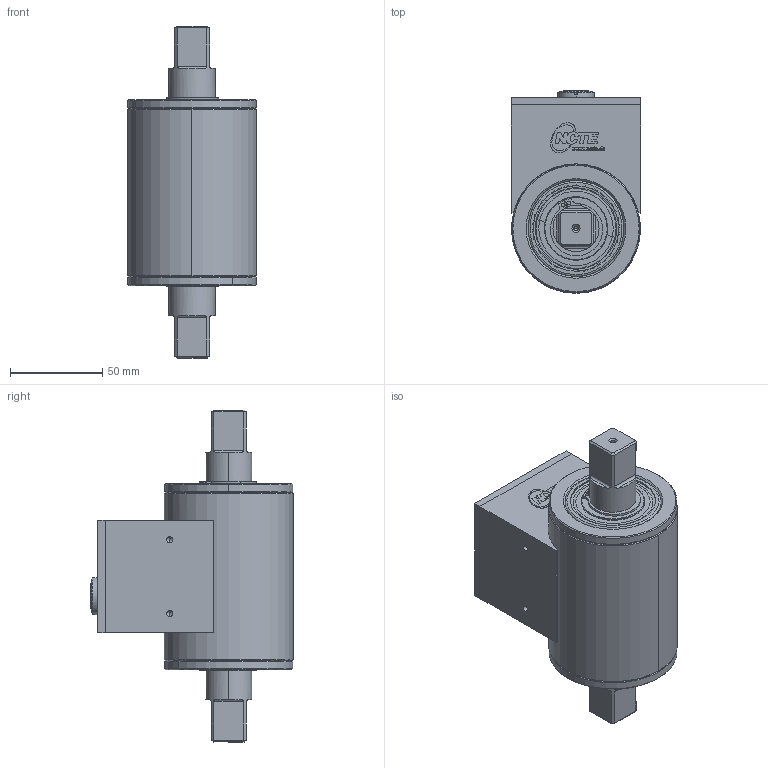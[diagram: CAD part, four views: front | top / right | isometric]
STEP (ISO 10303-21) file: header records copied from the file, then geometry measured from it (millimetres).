
FILE_DESCRIPTION (( 'STEP AP214' ), '1' );
FILE_NAME ('400007-ATS016_Sensor_Mb_250-500Nm_Vierkant_ohne_WS_IP50.STEP', '2016-11-29T09:55:41', ( '' ), ( '' ), 'SwSTEP 2.0', 'SolidWorks 2016', '' );
FILE_SCHEMA (( 'AUTOMOTIVE_DESIGN' ));
Length unit declared in the file: millimetre
Products named in the file (27): 400007-ATS016_Sensor_Mb_250-500Nm_Vierkant_ohne_WS_IP50; 999999-ATN173_Rillenkugellager_6205-2Z_Standard_8; Passscheibe DIN 988_DIN 988-42x52x1; 999999-ATN173_Rillenkugellager_6205-2Z_Standard_4; DIN 7991 - M4 x 10 --- 10S_DIN 7991 - M4 x 10 --- 10S; 999999-ATN173_Rillenkugellager_6205-2Z_Standard_5; 999999-ATN173_Rillenkugellager_6205-2Z_Standard_3; 400007-ATM019_Deckel_Elektronikgehäuse_Mb_250-500Nm; 400007-ATM016_Elektronikgehaeuse_Mb_250-500Nm; DIN 7991 - M3 x 10 --- 10S_DIN 7991 - M3 x 10 --- 10S; 999999-ATN173_Rillenkugellager_6205-2Z_Standard_2; Seegering DIN 471_Circlip DIN 471 - 25 x 1.2; 999999-ATN173_Rillenkugellager_6205-2Z_Standard_13; 999999-ATM007-Tellerfeder_k_vorgespannt51,5x35,5_Standard; 999999-ATN173_Rillenkugellager_6205-2Z_Standard_10; 999999-ATN173_Rillenkugellager_6205-2Z_Standard; 400007-ATM010_Rohrgehaeuse_Mb-250-500Nm; 999999-ATE072_Folientaster beleuchtet_Standard; 999999-ATE042_Buchse-09-0132-90-12_12Pol_Standard; 999999-ATN173_Rillenkugellager_6205-2Z_Standard_9; 999999-ATN173_Rillenkugellager_6205-2Z_Standard_7; 400007-ATM004_Welle25mm_Mb_250-500Nm_Vierkant; 999999-ATN173_Rillenkugellager_6205-2Z_Standard_6; 999999-ATN173_Rillenkugellager_6205-2Z_Standard_12; 400007-ATM013_Lagerdeckel_Mb-250-500Nm; 999999-ATN173_Rillenkugellager_6205-2Z_Standard_11
Assembly tree (38 placements, depth 3):
  400007-ATS016_Sensor_Mb_250-500Nm_Vierkant_ohne_WS_IP50
    400007-ATM004_Welle25mm_Mb_250-500Nm_Vierkant
    400007-ATM010_Rohrgehaeuse_Mb-250-500Nm
    DIN 7991 - M3 x 10 --- 10S_DIN 7991 - M3 x 10 --- 10S  x8
    400007-ATM013_Lagerdeckel_Mb-250-500Nm  x2
    400007-ATM016_Elektronikgehaeuse_Mb_250-500Nm
    DIN 7991 - M4 x 10 --- 10S_DIN 7991 - M4 x 10 --- 10S  x2
    999999-ATE072_Folientaster beleuchtet_Standard
    999999-ATE042_Buchse-09-0132-90-12_12Pol_Standard
    400007-ATM019_Deckel_Elektronikgehäuse_Mb_250-500Nm
    Passscheibe DIN 988_DIN 988-42x52x1  x2
    Seegering DIN 471_Circlip DIN 471 - 25 x 1.2  x2
    999999-ATN173_Rillenkugellager_6205-2Z_Standard  x2
      999999-ATN173_Rillenkugellager_6205-2Z_Standard_12
      999999-ATN173_Rillenkugellager_6205-2Z_Standard_6
      999999-ATN173_Rillenkugellager_6205-2Z_Standard
      999999-ATN173_Rillenkugellager_6205-2Z_Standard_11
      999999-ATN173_Rillenkugellager_6205-2Z_Standard_13
      999999-ATN173_Rillenkugellager_6205-2Z_Standard_9
      999999-ATN173_Rillenkugellager_6205-2Z_Standard_4
      999999-ATN173_Rillenkugellager_6205-2Z_Standard_10
      999999-ATN173_Rillenkugellager_6205-2Z_Standard_3
      999999-ATN173_Rillenkugellager_6205-2Z_Standard_2
      999999-ATN173_Rillenkugellager_6205-2Z_Standard_7
      999999-ATN173_Rillenkugellager_6205-2Z_Standard_8
      999999-ATN173_Rillenkugellager_6205-2Z_Standard_5
    999999-ATM007-Tellerfeder_k_vorgespannt51,5x35,5_Standard
Bounding box: 70 x 109.8 x 180 mm (x, y, z)
Surface area: 162809.2 mm2 (no closed solid volume)
Topology: 0 solids, 49 shells, 2128 faces, 4889 edges, 2826 vertices
Faces by surface type: cone 826, cylinder 648, plane 443, bspline 207, torus 4
Entity records: 33768 total; most frequent: CARTESIAN_POINT 8989, DIRECTION 4967, ORIENTED_EDGE 4874, EDGE_CURVE 2437, AXIS2_PLACEMENT_3D 1869, VERTEX_POINT 1533, VECTOR 1229, LINE 1229
